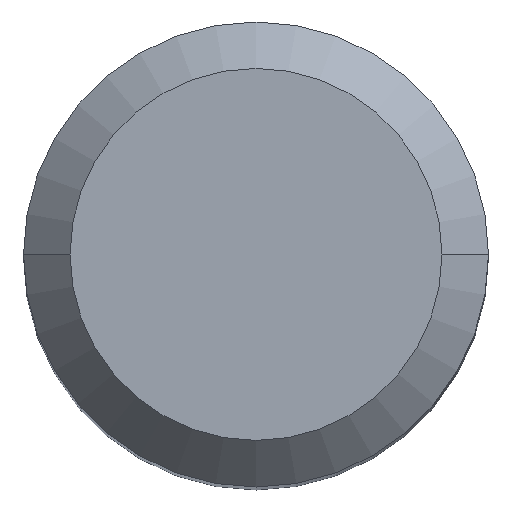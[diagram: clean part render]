
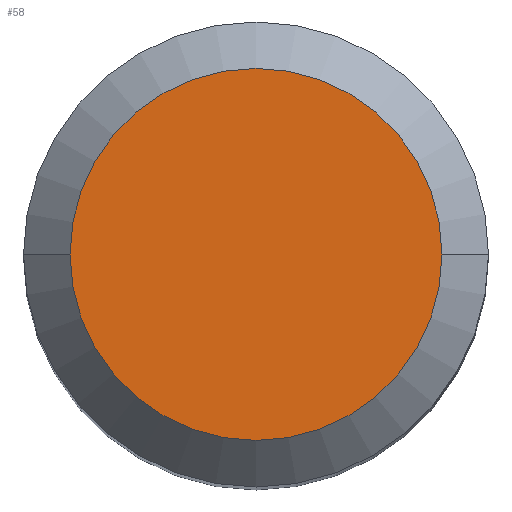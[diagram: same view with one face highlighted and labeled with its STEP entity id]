
A CAD part, top view. The second image highlights one B-rep face of the part: STEP entity #58.
In plain terms, the highlighted planar face has unit normal (0, 0, 1).
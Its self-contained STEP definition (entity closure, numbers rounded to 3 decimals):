
#13 = DIRECTION ( 'NONE',  ( 0., 0., -1. ) ) ;
#20 = CARTESIAN_POINT ( 'NONE',  ( -4.8, 0., 0. ) ) ;
#26 = VERTEX_POINT ( 'NONE', #374 ) ;
#37 = DIRECTION ( 'NONE',  ( -1., 0., 0. ) ) ;
#58 = ADVANCED_FACE ( 'NONE', ( #185 ), #386, .T. ) ;
#134 = DIRECTION ( 'NONE',  ( -1., 0., 0. ) ) ;
#185 = FACE_OUTER_BOUND ( 'NONE', #282, .T. ) ;
#215 = AXIS2_PLACEMENT_3D ( 'NONE', #345, #478, #382 ) ;
#237 = EDGE_CURVE ( 'NONE', #26, #465, #448, .T. ) ;
#282 = EDGE_LOOP ( 'NONE', ( #427, #517 ) ) ;
#313 = EDGE_CURVE ( 'NONE', #465, #26, #561, .T. ) ;
#321 = CARTESIAN_POINT ( 'NONE',  ( 0., 0., 0. ) ) ;
#345 = CARTESIAN_POINT ( 'NONE',  ( 0., 4.8, 0. ) ) ;
#374 = CARTESIAN_POINT ( 'NONE',  ( 4.8, 0., 0. ) ) ;
#382 = DIRECTION ( 'NONE',  ( 1., 0., 0. ) ) ;
#386 = PLANE ( 'NONE',  #215 ) ;
#424 = DIRECTION ( 'NONE',  ( 0., 0., -1. ) ) ;
#427 = ORIENTED_EDGE ( 'NONE', *, *, #313, .F. ) ;
#429 = CARTESIAN_POINT ( 'NONE',  ( 0., 0., 0. ) ) ;
#448 = CIRCLE ( 'NONE', #521, 4.8 ) ;
#453 = AXIS2_PLACEMENT_3D ( 'NONE', #321, #424, #134 ) ;
#465 = VERTEX_POINT ( 'NONE', #20 ) ;
#478 = DIRECTION ( 'NONE',  ( 0., 0., 1. ) ) ;
#517 = ORIENTED_EDGE ( 'NONE', *, *, #237, .F. ) ;
#521 = AXIS2_PLACEMENT_3D ( 'NONE', #429, #13, #37 ) ;
#561 = CIRCLE ( 'NONE', #453, 4.8 ) ;
